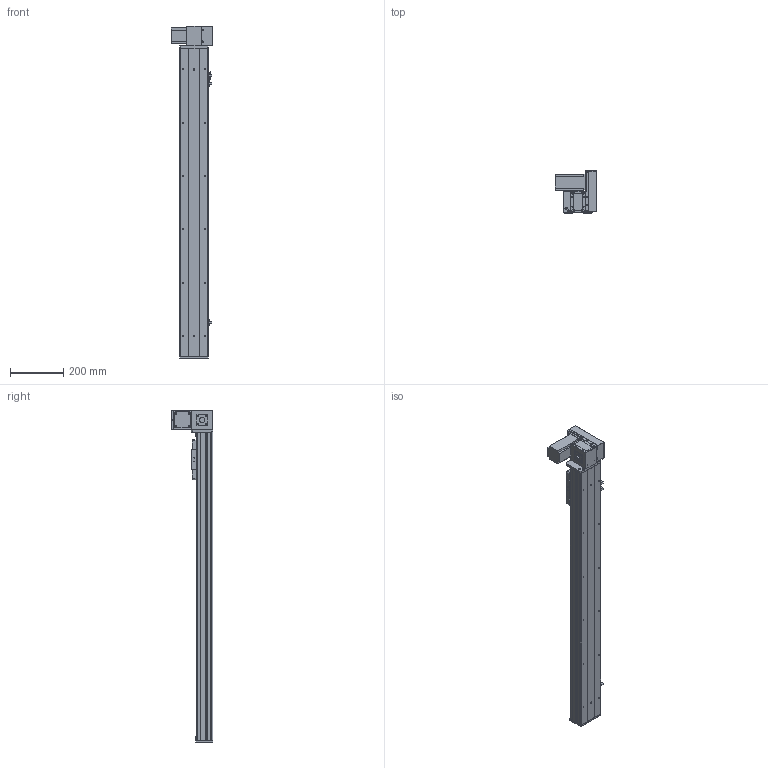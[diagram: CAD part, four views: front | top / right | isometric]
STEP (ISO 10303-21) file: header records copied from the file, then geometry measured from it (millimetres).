
FILE_DESCRIPTION (( 'STEP AP203' ), '1' );
FILE_NAME ('Y10CB-D90-S900-UR-P400W.STEP', '2020-02-16T03:29:13', ( '微软用户' ), ( '微软中国' ), 'SwSTEP 2.0', 'SolidWorks 2017', '' );
FILE_SCHEMA (( 'CONFIG_CONTROL_DESIGN' ));
Length unit declared in the file: millimetre
Products named in the file (18): Y10C---詩湍揤啣; 0Cb-俋欶---; 10CB9-掛极; Y10B-々湍喘謫眊楊擘啣--; 10CB-耜裔; 0B-萇儂楊擘啣; Y135C-陔俋离換覜結え-; san松下电机400不带刹车----; Y100-135俋离換覜ん--; 0B-源倛裔啣; Y10B--々湍喘謫眊--666; 0B-埴倛裔啣; Y10B-耜蚾蟀諉啣----; 10CB-詩湍-; 00B-俋欶BM--; Y10CB- 掛极耜裔啣-毀---; 0CB-雄赽釱---; Y10CB-D90-S900-UR-P400W
Assembly tree (21 placements, depth 2):
  Y10CB-D90-S900-UR-P400W
    0CB-雄赽釱---
    0Cb-俋欶---
    Y10B-々湍喘謫眊楊擘啣--
    0B-萇儂楊擘啣
    san松下电机400不带刹车----
    0B-源倛裔啣
    0B-埴倛裔啣
    10CB-詩湍-
    Y10CB- 掛极耜裔啣-毀---  x2
    Y10C---詩湍揤啣  x2
    10CB9-掛极
    10CB-耜裔
    Y135C-陔俋离換覜結え-
    Y100-135俋离換覜ん--  x3
    Y10B--々湍喘謫眊--666
    Y10B-耜蚾蟀諉啣----
    00B-俋欶BM--
Bounding box: 157 x 155.5 x 1246 mm (x, y, z)
Volume: 2961569.1 mm3; surface area: 1323406.8 mm2
Topology: 21 solids, 21 shells, 978 faces, 2603 edges, 1706 vertices
Faces by surface type: cylinder 479, plane 475, cone 24
Entity records: 30412 total; most frequent: CARTESIAN_POINT 5321, DIRECTION 4930, ORIENTED_EDGE 4676, EDGE_CURVE 2338, AXIS2_PLACEMENT_3D 1765, VERTEX_POINT 1532, VECTOR 1400, LINE 1400
